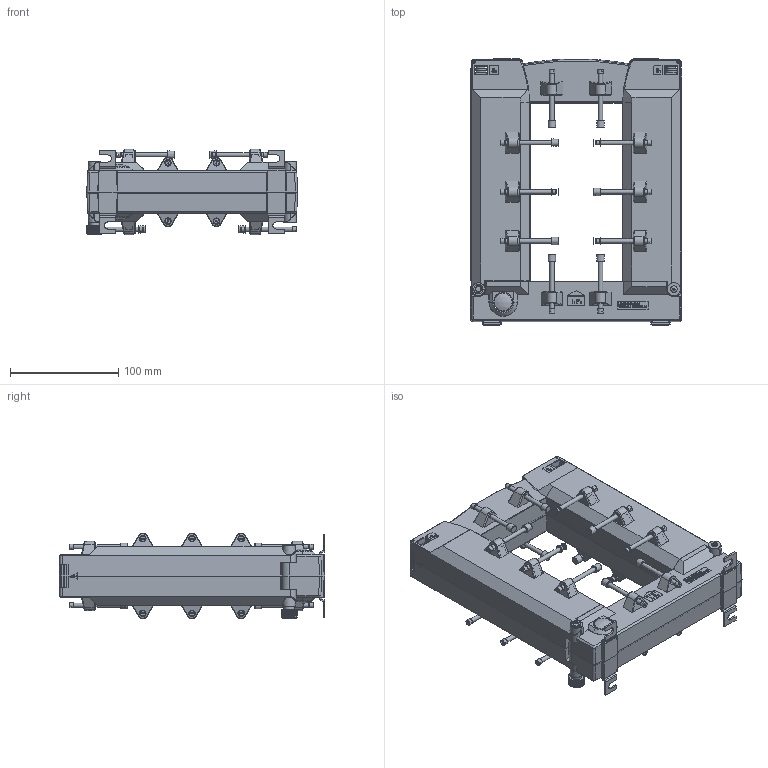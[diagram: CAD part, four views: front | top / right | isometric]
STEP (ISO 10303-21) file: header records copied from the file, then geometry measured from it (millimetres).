
FILE_DESCRIPTION(/* description */ (''),/* implementation_level */ '2;1');
FILE_NAME(/* name */ 'KBU816.stp',/* time_stamp */ '2024-03-06T09:32:34+01:00',/* author */ ('JDI'),/* organization */ (''),/* preprocessor_version */ 'ST-DEVELOPER v19.2',/* originating_system */ 'Autodesk Inventor 2023',/* authorisation */ '');
FILE_SCHEMA (('AUTOMOTIVE_DESIGN { 1 0 10303 214 3 1 1 }'));
Products named in the file (2): KBU816; KBU_816
Assembly tree (1 placements, depth 2):
  KBU816
    KBU_816
Bounding box: 195.7 x 246.16 x 79 mm (x, y, z)
Volume: 426015.3 mm3; surface area: 350825.9 mm2
Topology: 69 solids, 69 shells, 3883 faces, 10021 edges, 6437 vertices
Faces by surface type: plane 2188, cylinder 798, cone 470, bspline 273, torus 124, sphere 30
Full cylindrical faces by diameter (mm): 1.5 x4, 2 x5, 3 x10, 3.75 x20, 3.8 x20, 4 x20, 4.1 x20, 4.2 x4, 5 x26, 5.3 x4, 6 x8, 7.6 x2, 8.4 x1, 8.5 x1, 8.6 x2, 10 x9
Entity records: 135525 total; most frequent: CARTESIAN_POINT 40237, ORIENTED_EDGE 20000, DIRECTION 19133, EDGE_CURVE 10000, VERTEX_POINT 6436, AXIS2_PLACEMENT_3D 6383, LINE 6367, VECTOR 6367
